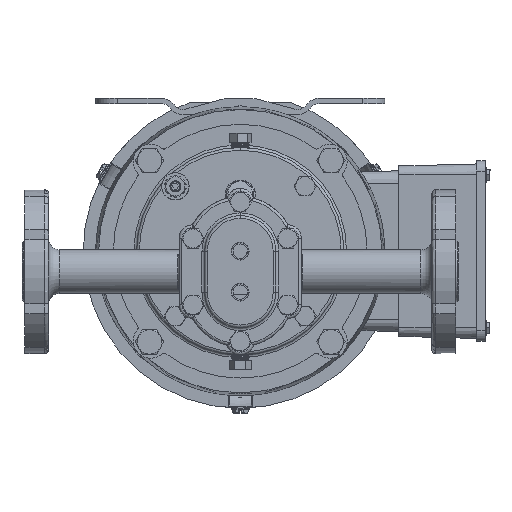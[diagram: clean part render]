
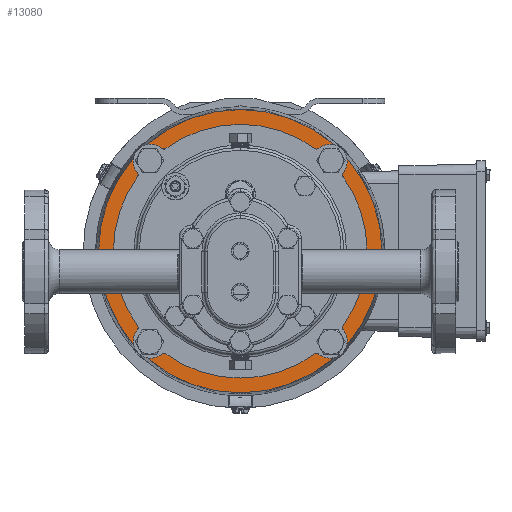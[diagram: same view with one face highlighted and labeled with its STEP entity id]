
A CAD part, front view. The second image highlights one B-rep face of the part: STEP entity #13080.
In plain terms, the highlighted planar face has unit normal (0, -1, 0).
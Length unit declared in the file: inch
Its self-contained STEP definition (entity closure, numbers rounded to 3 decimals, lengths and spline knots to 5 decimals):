
#574 = AXIS2_PLACEMENT_3D ( 'NONE', #80881, #31601, #61442 ) ;
#827 = EDGE_CURVE ( 'NONE', #66652, #3066, #31987, .T. ) ;
#1004 = FACE_BOUND ( 'NONE', #52176, .T. ) ;
#1223 = AXIS2_PLACEMENT_3D ( 'NONE', #49451, #71421, #61711 ) ;
#1629 = FACE_BOUND ( 'NONE', #116391, .T. ) ;
#3066 = VERTEX_POINT ( 'NONE', #127893 ) ;
#4345 = EDGE_CURVE ( 'NONE', #86652, #83849, #44419, .T. ) ;
#4413 = EDGE_CURVE ( 'NONE', #86498, #121752, #71331, .T. ) ;
#4734 = CIRCLE ( 'NONE', #118661, 2.24925 ) ;
#5206 = VERTEX_POINT ( 'NONE', #122702 ) ;
#5910 = EDGE_CURVE ( 'NONE', #118714, #66127, #81616, .T. ) ;
#9786 = ORIENTED_EDGE ( 'NONE', *, *, #10415, .F. ) ;
#9829 = CARTESIAN_POINT ( 'NONE',  ( 1.90188, 6.154, 2.54613 ) ) ;
#10415 = EDGE_CURVE ( 'NONE', #83849, #86652, #67472, .T. ) ;
#11663 = CARTESIAN_POINT ( 'NONE',  ( 0., 6.154, 0.469 ) ) ;
#12330 = ORIENTED_EDGE ( 'NONE', *, *, #4345, .F. ) ;
#13080 = ADVANCED_FACE ( 'NONE', ( #1629, #22965, #21710, #1004, #42462, #61296 ), #41192, .T. ) ;
#14804 = CARTESIAN_POINT ( 'NONE',  ( -2.25238, 6.154, -1.60813 ) ) ;
#15745 = ORIENTED_EDGE ( 'NONE', *, *, #60589, .F. ) ;
#16166 = ORIENTED_EDGE ( 'NONE', *, *, #33253, .T. ) ;
#17124 = ORIENTED_EDGE ( 'NONE', *, *, #44458, .F. ) ;
#19840 = DIRECTION ( 'NONE',  ( -1., 0., 0. ) ) ;
#21545 = AXIS2_PLACEMENT_3D ( 'NONE', #67042, #65128, #104591 ) ;
#21710 = FACE_BOUND ( 'NONE', #94241, .T. ) ;
#22965 = FACE_BOUND ( 'NONE', #65093, .T. ) ;
#25687 = AXIS2_PLACEMENT_3D ( 'NONE', #40914, #80422, #100437 ) ;
#28114 = CIRCLE ( 'NONE', #63382, 0.17525 ) ;
#29129 = AXIS2_PLACEMENT_3D ( 'NONE', #71989, #111461, #110847 ) ;
#30796 = DIRECTION ( 'NONE',  ( -1., 0., 0. ) ) ;
#31601 = DIRECTION ( 'NONE',  ( 0., -1., 0. ) ) ;
#31987 = CIRCLE ( 'NONE', #67145, 0.17525 ) ;
#33253 = EDGE_CURVE ( 'NONE', #88224, #5206, #4734, .T. ) ;
#35268 = AXIS2_PLACEMENT_3D ( 'NONE', #120227, #61896, #30796 ) ;
#38019 = VERTEX_POINT ( 'NONE', #83125 ) ;
#39677 = ORIENTED_EDGE ( 'NONE', *, *, #117291, .F. ) ;
#40914 = CARTESIAN_POINT ( 'NONE',  ( -2.07713, 6.154, -1.60813 ) ) ;
#41192 = PLANE ( 'NONE',  #35268 ) ;
#41506 = CARTESIAN_POINT ( 'NONE',  ( -1.90188, 6.154, -1.60813 ) ) ;
#41765 = DIRECTION ( 'NONE',  ( -1., 0., 0. ) ) ;
#42462 = FACE_OUTER_BOUND ( 'NONE', #108673, .T. ) ;
#44419 = CIRCLE ( 'NONE', #21545, 0.17525 ) ;
#44458 = EDGE_CURVE ( 'NONE', #66127, #118714, #122676, .T. ) ;
#44570 = EDGE_CURVE ( 'NONE', #38019, #71550, #114300, .T. ) ;
#48128 = CARTESIAN_POINT ( 'NONE',  ( 1.90188, 6.154, -1.60813 ) ) ;
#49451 = CARTESIAN_POINT ( 'NONE',  ( 2.07713, 6.154, -1.60813 ) ) ;
#51439 = EDGE_CURVE ( 'NONE', #3066, #66652, #28114, .T. ) ;
#51895 = CIRCLE ( 'NONE', #29129, 0.17525 ) ;
#52176 = EDGE_LOOP ( 'NONE', ( #15745, #122768 ) ) ;
#53581 = CARTESIAN_POINT ( 'NONE',  ( -2.25238, 6.154, 2.54613 ) ) ;
#54748 = CARTESIAN_POINT ( 'NONE',  ( 2.25238, 6.154, -1.60813 ) ) ;
#54876 = CARTESIAN_POINT ( 'NONE',  ( 2.07713, 6.154, 2.54613 ) ) ;
#56800 = ORIENTED_EDGE ( 'NONE', *, *, #5910, .F. ) ;
#58515 = AXIS2_PLACEMENT_3D ( 'NONE', #54876, #126089, #19840 ) ;
#60589 = EDGE_CURVE ( 'NONE', #71550, #38019, #51895, .T. ) ;
#61296 = FACE_BOUND ( 'NONE', #76483, .T. ) ;
#61442 = DIRECTION ( 'NONE',  ( -1., 0., 0. ) ) ;
#61711 = DIRECTION ( 'NONE',  ( -1., 0., 0. ) ) ;
#61896 = DIRECTION ( 'NONE',  ( 0., -1., 0. ) ) ;
#63382 = AXIS2_PLACEMENT_3D ( 'NONE', #108799, #68034, #77097 ) ;
#63718 = CARTESIAN_POINT ( 'NONE',  ( -3.24347, 6.154, 0.469 ) ) ;
#65093 = EDGE_LOOP ( 'NONE', ( #56800, #17124 ) ) ;
#65128 = DIRECTION ( 'NONE',  ( 0., -1., 0. ) ) ;
#66127 = VERTEX_POINT ( 'NONE', #41506 ) ;
#66608 = DIRECTION ( 'NONE',  ( 0., 1., 0. ) ) ;
#66652 = VERTEX_POINT ( 'NONE', #53581 ) ;
#67042 = CARTESIAN_POINT ( 'NONE',  ( 2.07713, 6.154, -1.60813 ) ) ;
#67145 = AXIS2_PLACEMENT_3D ( 'NONE', #107278, #97553, #128066 ) ;
#67472 = CIRCLE ( 'NONE', #1223, 0.17525 ) ;
#68034 = DIRECTION ( 'NONE',  ( 0., -1., 0. ) ) ;
#68155 = AXIS2_PLACEMENT_3D ( 'NONE', #76252, #124854, #91378 ) ;
#70026 = DIRECTION ( 'NONE',  ( 0., 1., 0. ) ) ;
#71331 = CIRCLE ( 'NONE', #96145, 3.24347 ) ;
#71421 = DIRECTION ( 'NONE',  ( 0., -1., 0. ) ) ;
#71550 = VERTEX_POINT ( 'NONE', #9829 ) ;
#71989 = CARTESIAN_POINT ( 'NONE',  ( 2.07713, 6.154, 2.54613 ) ) ;
#72796 = DIRECTION ( 'NONE',  ( 0., 1., 0. ) ) ;
#76252 = CARTESIAN_POINT ( 'NONE',  ( 0., 6.154, 0.469 ) ) ;
#76483 = EDGE_LOOP ( 'NONE', ( #117597, #16166 ) ) ;
#77097 = DIRECTION ( 'NONE',  ( -1., 0., 0. ) ) ;
#80422 = DIRECTION ( 'NONE',  ( 0., -1., 0. ) ) ;
#80856 = CIRCLE ( 'NONE', #87282, 2.24925 ) ;
#80881 = CARTESIAN_POINT ( 'NONE',  ( -2.07713, 6.154, -1.60813 ) ) ;
#81616 = CIRCLE ( 'NONE', #25687, 0.17525 ) ;
#81642 = DIRECTION ( 'NONE',  ( 1., 0., 0. ) ) ;
#83125 = CARTESIAN_POINT ( 'NONE',  ( 2.25238, 6.154, 2.54613 ) ) ;
#83849 = VERTEX_POINT ( 'NONE', #54748 ) ;
#86498 = VERTEX_POINT ( 'NONE', #63718 ) ;
#86652 = VERTEX_POINT ( 'NONE', #48128 ) ;
#87282 = AXIS2_PLACEMENT_3D ( 'NONE', #11663, #66608, #126200 ) ;
#87993 = EDGE_CURVE ( 'NONE', #5206, #88224, #80856, .T. ) ;
#88224 = VERTEX_POINT ( 'NONE', #89001 ) ;
#89001 = CARTESIAN_POINT ( 'NONE',  ( -2.24925, 6.154, 0.469 ) ) ;
#90316 = CARTESIAN_POINT ( 'NONE',  ( 0., 6.154, 0.469 ) ) ;
#91378 = DIRECTION ( 'NONE',  ( -1., 0., 0. ) ) ;
#92065 = ORIENTED_EDGE ( 'NONE', *, *, #827, .F. ) ;
#93390 = CARTESIAN_POINT ( 'NONE',  ( 3.24347, 6.154, 0.469 ) ) ;
#93517 = ORIENTED_EDGE ( 'NONE', *, *, #51439, .F. ) ;
#94241 = EDGE_LOOP ( 'NONE', ( #92065, #93517 ) ) ;
#96145 = AXIS2_PLACEMENT_3D ( 'NONE', #90316, #72796, #41765 ) ;
#96539 = ORIENTED_EDGE ( 'NONE', *, *, #4413, .F. ) ;
#97553 = DIRECTION ( 'NONE',  ( 0., -1., 0. ) ) ;
#100437 = DIRECTION ( 'NONE',  ( -1., 0., 0. ) ) ;
#104591 = DIRECTION ( 'NONE',  ( -1., 0., 0. ) ) ;
#107278 = CARTESIAN_POINT ( 'NONE',  ( -2.07713, 6.154, 2.54613 ) ) ;
#108673 = EDGE_LOOP ( 'NONE', ( #39677, #96539 ) ) ;
#108799 = CARTESIAN_POINT ( 'NONE',  ( -2.07713, 6.154, 2.54613 ) ) ;
#108842 = CARTESIAN_POINT ( 'NONE',  ( 0., 6.154, 0.469 ) ) ;
#110847 = DIRECTION ( 'NONE',  ( -1., 0., 0. ) ) ;
#111461 = DIRECTION ( 'NONE',  ( 0., -1., 0. ) ) ;
#113592 = CIRCLE ( 'NONE', #68155, 3.24347 ) ;
#114300 = CIRCLE ( 'NONE', #58515, 0.17525 ) ;
#116391 = EDGE_LOOP ( 'NONE', ( #12330, #9786 ) ) ;
#117291 = EDGE_CURVE ( 'NONE', #121752, #86498, #113592, .T. ) ;
#117597 = ORIENTED_EDGE ( 'NONE', *, *, #87993, .T. ) ;
#118661 = AXIS2_PLACEMENT_3D ( 'NONE', #108842, #70026, #81642 ) ;
#118714 = VERTEX_POINT ( 'NONE', #14804 ) ;
#120227 = CARTESIAN_POINT ( 'NONE',  ( 0., 6.154, -3.608 ) ) ;
#121752 = VERTEX_POINT ( 'NONE', #93390 ) ;
#122676 = CIRCLE ( 'NONE', #574, 0.17525 ) ;
#122702 = CARTESIAN_POINT ( 'NONE',  ( 2.24925, 6.154, 0.469 ) ) ;
#122768 = ORIENTED_EDGE ( 'NONE', *, *, #44570, .F. ) ;
#124854 = DIRECTION ( 'NONE',  ( 0., 1., 0. ) ) ;
#126089 = DIRECTION ( 'NONE',  ( 0., -1., 0. ) ) ;
#126200 = DIRECTION ( 'NONE',  ( 1., 0., 0. ) ) ;
#127893 = CARTESIAN_POINT ( 'NONE',  ( -1.90188, 6.154, 2.54613 ) ) ;
#128066 = DIRECTION ( 'NONE',  ( -1., 0., 0. ) ) ;
